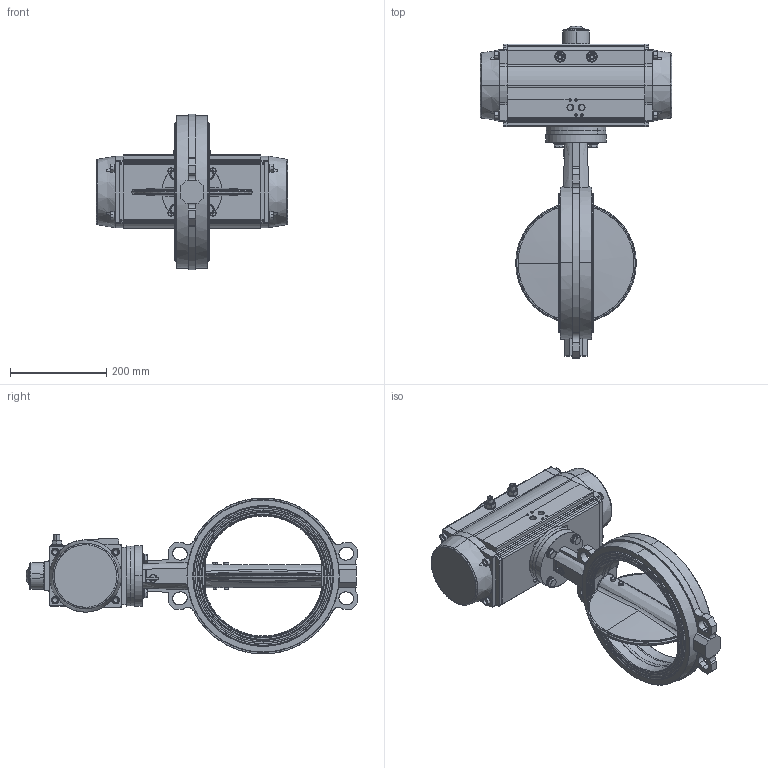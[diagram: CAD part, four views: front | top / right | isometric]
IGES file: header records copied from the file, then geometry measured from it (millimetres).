
Start section: SolidWorks IGES file using analytic representation for surfaces
Global section: file name: H:\BE FABRICATION\BE SERIE\VP\VP SERIE\F072 VPG\plan 3D\VPG-N03\WAFER\DN250\VPG444X-N03XX0250.igs; native system: SolidWorks 2020; preprocessor: SolidWorks 2020; author: k.gigout; date: 220627.174253; units: millimetre
Bounding box: 398 x 689.52 x 323.89 mm (x, y, z)
Surface area: 744829.5 mm2 (no closed solid volume)
Topology: 0 solids, 0 shells, 701 faces, 21213 edges, 21213 vertices
Faces by surface type: bspline 399, revolution 302
